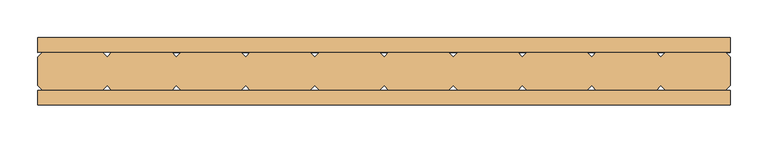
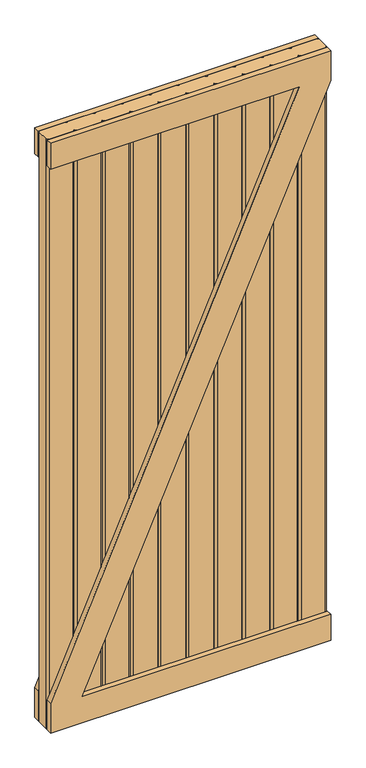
"""IFC4 building model written with IfcOpenShell, lengths in millimetres: door geometry, Planitar - Swap_Barn Panel : Planitar - Swap_Barn Panel."""

import ifcopenshell
import ifcopenshell.guid

model = None  # the IFC model being written
_history = None  # IfcOwnerHistory: only IFC2X3 demands one
_inside = {}  # id of a spatial element -> (the spatial element, [elements in it])
_under = {}  # id of a project, library or spatial element -> (it, [spatial elements below it])
_declared = {}  # id of a project -> (the project, [libraries it declares])
_typed = {}  # id of a type object -> (the type object, [elements of that type])
_made_of = {}  # id of a material, layer set ... -> (it, [elements and type objects made of it])


def new_model(schema):
    """Start an empty IFC model of exactly this schema.

    Asked for "IFC4X3", IfcOpenShell would pick the latest addendum, in which some entities
    have other attributes; the version numbers below select the first issue.
    IFC2X3 requires an IfcOwnerHistory on every rooted entity: one is made here for all.
    """
    global model, _history
    if schema == "IFC4X3":
        model = ifcopenshell.file(schema_version=(4, 3, 0, 0))
    else:
        model = ifcopenshell.file(schema=schema)
    _inside.clear()
    _under.clear()
    _declared.clear()
    _typed.clear()
    _made_of.clear()
    _history = None
    if model.schema == "IFC2X3":
        org = make("IfcOrganization", Name="unknown")
        user = make(
            "IfcPersonAndOrganization",
            ThePerson=make("IfcPerson", FamilyName="unknown"),
            TheOrganization=org,
        )
        app = make(
            "IfcApplication",
            ApplicationDeveloper=org,
            Version="unknown",
            ApplicationFullName="unknown",
            ApplicationIdentifier="unknown",
        )
        _history = make(
            "IfcOwnerHistory",
            OwningUser=user,
            OwningApplication=app,
            ChangeAction="ADDED",
            CreationDate=0,
        )
    return model


def make(cls, **values):
    """One entity of the class cls with the attributes given. An attribute that is None is left unset."""
    return model.create_entity(
        cls, **{name: value for name, value in values.items() if value is not None}
    )


def rooted(cls, **values):
    """An entity with a GlobalId (a new one), such as an element, a storey or a relation."""
    return make(cls, GlobalId=ifcopenshell.guid.new(), OwnerHistory=_history, **values)


def si_unit(unit_type, name, prefix=None):
    """IfcSIUnit, for example si_unit("LENGTHUNIT", "METRE", prefix="MILLI")."""
    return make("IfcSIUnit", UnitType=unit_type, Prefix=prefix, Name=name)


def assignment(units):
    """IfcUnitAssignment: the units of a project."""
    return None if units is None else make("IfcUnitAssignment", Units=units)


def point(xyz):
    """IfcCartesianPoint."""
    return None if xyz is None else make("IfcCartesianPoint", Coordinates=xyz)


def direction(xyz):
    """IfcDirection."""
    return None if xyz is None else make("IfcDirection", DirectionRatios=xyz)


def frame(location, z_axis=None, x_axis=None):
    """IfcAxis2Placement3D, a coordinate frame: its origin and axes. An axis left out is left unset."""
    return make(
        "IfcAxis2Placement3D",
        Location=point(location),
        Axis=direction(z_axis),
        RefDirection=direction(x_axis),
    )


def origin():
    """The frame at (0, 0, 0) with its axes left unset."""
    return frame((0.0, 0.0, 0.0))


def origin_with_axes():
    """The frame at (0, 0, 0) with the z axis (0, 0, 1) and the x axis (1, 0, 0) written out."""
    return frame((0.0, 0.0, 0.0), z_axis=(0.0, 0.0, 1.0), x_axis=(1.0, 0.0, 0.0))


def place(relative_to, where):
    """IfcLocalPlacement: puts the frame where relative to a parent placement (None: the world)."""
    return make(
        "IfcLocalPlacement", PlacementRelTo=relative_to, RelativePlacement=where
    )


def context(
    kind, dimensions, precision=None, world=None, true_north=None, identifier=None
):
    """IfcGeometricRepresentationContext, for example the 3D "Model" context."""
    return make(
        "IfcGeometricRepresentationContext",
        ContextIdentifier=identifier,
        ContextType=kind,
        CoordinateSpaceDimension=dimensions,
        Precision=precision,
        WorldCoordinateSystem=world,
        TrueNorth=true_north,
    )


def project(units=None, contexts=None):
    """IfcProject with its units and contexts."""
    return rooted(
        "IfcProject",
        Name="project",
        RepresentationContexts=contexts,
        UnitsInContext=assignment(units),
    )


def spatial(cls, under=None, at=None, **own):
    """A site, building, storey or space (cls), placed at a placement, below another one or the project."""
    s = rooted(cls, ObjectPlacement=at, **own)
    if under is not None:
        _under.setdefault(under.id(), (under, []))[1].append(s)
    return s


def polyline(points):
    """IfcPolyline through the points."""
    return make("IfcPolyline", Points=[point(p) for p in points])


def outline(outer, holes=None, kind="AREA"):
    """IfcArbitraryClosedProfileDef: a profile drawn as a closed curve; with holes, ...WithVoids."""
    if holes is None:
        return make("IfcArbitraryClosedProfileDef", ProfileType=kind, OuterCurve=outer)
    return make(
        "IfcArbitraryProfileDefWithVoids",
        ProfileType=kind,
        OuterCurve=outer,
        InnerCurves=holes,
    )


def extrude(swept, where, along, depth):
    """IfcExtrudedAreaSolid: the profile swept, set in the frame where, extruded along a direction by depth."""
    return make(
        "IfcExtrudedAreaSolid",
        SweptArea=swept,
        Position=where,
        ExtrudedDirection=direction(along),
        Depth=depth,
    )


def shape(context_of_items, identifier, shape_type, items):
    """IfcShapeRepresentation: the items that make up one representation, for example the "Body"."""
    return make(
        "IfcShapeRepresentation",
        ContextOfItems=context_of_items,
        RepresentationIdentifier=identifier,
        RepresentationType=shape_type,
        Items=items,
    )


def source(mapping_origin, context_of_items, identifier, shape_type, items):
    """IfcRepresentationMap: a shape defined once, which mapped items show again and again."""
    return make(
        "IfcRepresentationMap",
        MappingOrigin=mapping_origin,
        MappedRepresentation=shape(context_of_items, identifier, shape_type, items),
    )


def transform(
    local_origin,
    x_axis=None,
    y_axis=None,
    z_axis=None,
    scale=None,
    scale2=None,
    scale3=None,
    uniform=True,
):
    """IfcCartesianTransformationOperator3D, or its non-uniform kind. x_axis, y_axis, z_axis: its Axis1, 2, 3."""
    if uniform:
        return make(
            "IfcCartesianTransformationOperator3D",
            Axis1=direction(x_axis),
            Axis2=direction(y_axis),
            LocalOrigin=point(local_origin),
            Scale=scale,
            Axis3=direction(z_axis),
        )
    return make(
        "IfcCartesianTransformationOperator3DnonUniform",
        Axis1=direction(x_axis),
        Axis2=direction(y_axis),
        LocalOrigin=point(local_origin),
        Scale=scale,
        Axis3=direction(z_axis),
        Scale2=scale2,
        Scale3=scale3,
    )


def mapped(mapping_source, mapping_target):
    """IfcMappedItem: shows the shape of a source again, moved by a transform."""
    return make(
        "IfcMappedItem", MappingSource=mapping_source, MappingTarget=mapping_target
    )


def made_of(thing, what):
    """Note that an element or type object is made of a material, layer set ...; save() writes the relation."""
    if what is not None:
        _made_of.setdefault(what.id(), (what, []))[1].append(thing)
    return thing


def element(
    cls,
    number,
    at=None,
    inside=None,
    cuts=None,
    type_object=None,
    material=None,
    context=None,
    identifier="Body",
    shape_type=None,
    held_by="IfcProductDefinitionShape",
    body=None,
    shapes=None,
    **own,
):
    """One element of the class cls, such as IfcWall. Its Tag is "e" and its number.

    at: its placement. inside: the storey or other place that contains it. cuts: it is an
    opening in that element (IfcRelVoidsElement). A single representation is given by context,
    identifier, shape_type and body (its items); several are given by shapes. held_by: the class
    of the entity that holds the representations. save() writes the other relations.
    """
    e = rooted(cls, Tag="e%d" % number, ObjectPlacement=at, **own)
    if body is not None:
        shapes = [shape(context, identifier, shape_type, body)]
    if shapes is not None:
        e.Representation = make(held_by, Representations=shapes)
    if inside is not None:
        _inside.setdefault(inside.id(), (inside, []))[1].append(e)
    if cuts is not None:
        rooted(
            "IfcRelVoidsElement", RelatingBuildingElement=cuts, RelatedOpeningElement=e
        )
    if type_object is not None:
        _typed.setdefault(type_object.id(), (type_object, []))[1].append(e)
    return made_of(e, material)


def aggregate(whole, parts):
    """IfcRelAggregates: a whole, such as a stair, and the parts it consists of."""
    return rooted("IfcRelAggregates", RelatingObject=whole, RelatedObjects=parts)


def save(model, path):
    """Write the relations noted so far, then the file.

    IfcRelAggregates (storeys below a building ...), IfcRelContainedInSpatialStructure (elements
    in a storey), IfcRelDefinesByType, IfcRelAssociatesMaterial and IfcRelDeclares: one each for
    every whole, place, type object, material and project.
    """
    for whole, parts in _under.values():
        aggregate(whole, parts)
    for where, things in _inside.values():
        rooted(
            "IfcRelContainedInSpatialStructure",
            RelatedElements=things,
            RelatingStructure=where,
        )
    for kind, things in _typed.values():
        rooted("IfcRelDefinesByType", RelatedObjects=things, RelatingType=kind)
    for what, things in _made_of.values():
        rooted("IfcRelAssociatesMaterial", RelatedObjects=things, RelatingMaterial=what)
    for by, libraries in _declared.values():
        rooted("IfcRelDeclares", RelatingContext=by, RelatedDefinitions=libraries)
    model.write(path)


def door_3f9b8e73(model_context):
    return source(origin(), model_context, "Body", "SweptSolid", [
        extrude(outline(polyline([(101.6, -457.2), (0.0, -457.2), (0.0, 457.2), (88.9, 457.2), (88.9, -355.4746711), (1930.4, 457.2), (2032.0, 457.2), (2032.0, -457.2), (1943.1, -457.2), (1943.1, 355.4746711), (101.6, -457.2)])), frame((0.0, -44.45, 0.0), z_axis=(0.0, 1.0, 0.0), x_axis=(0.0, 0.0, 1.0)), (0.0, 0.0, 1.0), 19.05),
        extrude(outline(polyline([(101.6, -457.2), (0.0, -457.2), (0.0, 457.2), (88.9, 457.2), (88.9, -355.4746711), (1930.4, 457.2), (2032.0, 457.2), (2032.0, -457.2), (1943.1, -457.2), (1943.1, 355.4746711), (101.6, -457.2)])), frame((0.0, 25.4, 0.0), z_axis=(0.0, 1.0, 0.0), x_axis=(0.0, 0.0, 1.0)), (0.0, 0.0, 1.0), 19.05),
        extrude(outline(polyline([(-457.2, -19.05), (-457.2, 19.05), (-450.85, 25.4), (-372.11, 25.4), (-365.76, 19.05), (-359.41, 25.4), (-280.67, 25.4), (-274.32, 19.05), (-267.97, 25.4), (-189.23, 25.4), (-182.88, 19.05), (-176.53, 25.4), (-97.79, 25.4), (-91.44, 19.05), (-85.09, 25.4), (-6.35, 25.4), (0.0, 19.05), (6.35, 25.4), (85.09, 25.4), (91.44, 19.05), (97.79, 25.4), (176.53, 25.4), (182.88, 19.05), (189.23, 25.4), (267.97, 25.4), (274.32, 19.05), (280.67, 25.4), (359.41, 25.4), (365.76, 19.05), (372.11, 25.4), (450.85, 25.4), (457.2, 19.05), (457.2, -19.05), (450.85, -25.4), (372.11, -25.4), (365.76, -19.05), (359.41, -25.4), (280.67, -25.4), (274.32, -19.05), (267.97, -25.4), (189.23, -25.4), (182.88, -19.05), (176.53, -25.4), (97.79, -25.4), (91.44, -19.05), (85.09, -25.4), (6.35, -25.4), (0.0, -19.05), (-6.35, -25.4), (-85.09, -25.4), (-91.44, -19.05), (-97.79, -25.4), (-176.53, -25.4), (-182.88, -19.05), (-189.23, -25.4), (-267.97, -25.4), (-274.32, -19.05), (-280.67, -25.4), (-359.41, -25.4), (-365.76, -19.05), (-372.11, -25.4), (-450.85, -25.4), (-457.2, -19.05)])), origin_with_axes(), (0.0, 0.0, 1.0), 2032.0),
    ])


if __name__ == "__main__":
    model = new_model("IFC4")
    model_context = context("Model", 3, world=origin())
    ifc_project = project(units=[si_unit("LENGTHUNIT", "METRE", prefix="MILLI")], contexts=[model_context])
    site = spatial("IfcSite", under=ifc_project)
    building = spatial("IfcBuilding", under=site)
    placement = place(None, origin())
    door_shape = door_3f9b8e73(model_context)
    element("IfcDoor", 1, ObjectType="Planitar - Swap_Barn Panel : Planitar - Swap_Barn Panel", at=placement, inside=building, context=model_context, shape_type="MappedRepresentation", body=[
        mapped(door_shape, transform((0.0, 0.0, 0.0), x_axis=(1.0, 0.0, 0.0), y_axis=(0.0, 1.0, 0.0), z_axis=(0.0, 0.0, 1.0))),
    ])
    save(model, "model.ifc")
